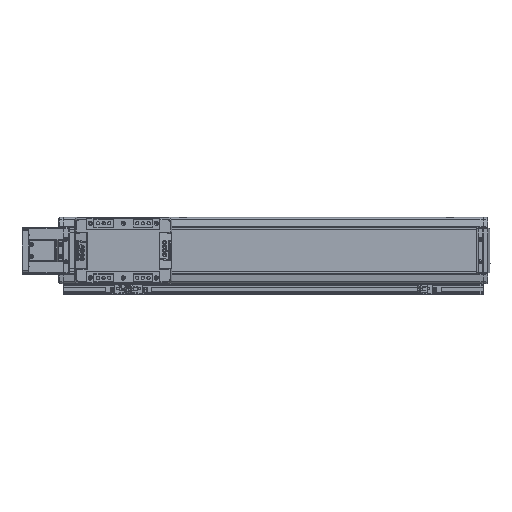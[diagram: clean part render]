
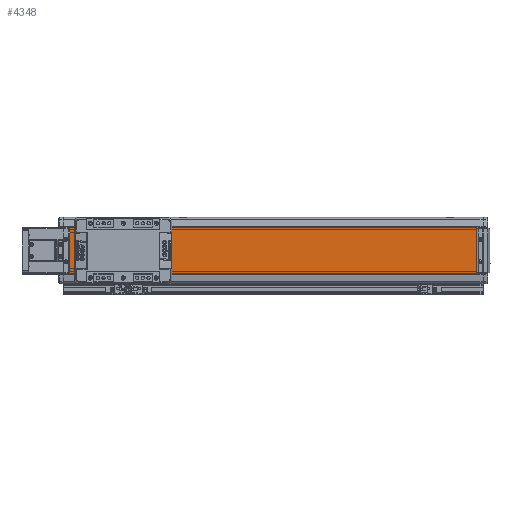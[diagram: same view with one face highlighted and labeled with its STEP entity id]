
A CAD part, top view. The second image highlights one B-rep face of the part: STEP entity #4348.
In plain terms, the highlighted planar face has unit normal (0, 0, 1).
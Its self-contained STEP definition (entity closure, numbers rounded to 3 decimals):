
#4348=ADVANCED_FACE('',(#10932),#10933,.T.);
#10932=FACE_OUTER_BOUND('',#20521,.T.);
#10933=PLANE('',#20522);
#20521=EDGE_LOOP('',(#33155,#33156,#33157,#33158));
#20522=AXIS2_PLACEMENT_3D('',#33159,#33160,#33161);
#33155=ORIENTED_EDGE('',*,*,#58259,.T.);
#33156=ORIENTED_EDGE('',*,*,#58260,.F.);
#33157=ORIENTED_EDGE('',*,*,#57228,.T.);
#33158=ORIENTED_EDGE('',*,*,#58261,.T.);
#33159=CARTESIAN_POINT('',(-580.,0.,20.15));
#33160=DIRECTION('',(0.,0.,1.0));
#33161=DIRECTION('',(0.,-1.0,0.));
#57228=EDGE_CURVE('',#69047,#69045,#69048,.T.);
#58259=EDGE_CURVE('',#70794,#70795,#70796,.T.);
#58260=EDGE_CURVE('',#69047,#70795,#70797,.T.);
#58261=EDGE_CURVE('',#69045,#70794,#70798,.T.);
#69045=VERTEX_POINT('',#85511);
#69047=VERTEX_POINT('',#85514);
#69048=LINE('',#85515,#85516);
#70794=VERTEX_POINT('',#87914);
#70795=VERTEX_POINT('',#87915);
#70796=LINE('',#87916,#87917);
#70797=LINE('',#87918,#87919);
#70798=LINE('',#87920,#87921);
#85511=CARTESIAN_POINT('',(-580.,-35.,20.15));
#85514=CARTESIAN_POINT('',(-580.,35.,20.15));
#85515=CARTESIAN_POINT('',(-580.,35.,20.15));
#85516=VECTOR('',#105641,10.0);
#87914=CARTESIAN_POINT('',(50.,-35.,20.15));
#87915=CARTESIAN_POINT('',(50.,35.,20.15));
#87916=CARTESIAN_POINT('',(50.,35.,20.15));
#87917=VECTOR('',#107026,10.0);
#87918=CARTESIAN_POINT('',(-580.,35.,20.15));
#87919=VECTOR('',#107027,10.0);
#87920=CARTESIAN_POINT('',(-580.,-35.,20.15));
#87921=VECTOR('',#107028,10.0);
#105641=DIRECTION('',(0.,-1.0,0.));
#107026=DIRECTION('',(0.,1.0,0.));
#107027=DIRECTION('',(1.0,0.,0.));
#107028=DIRECTION('',(1.0,0.,0.));
